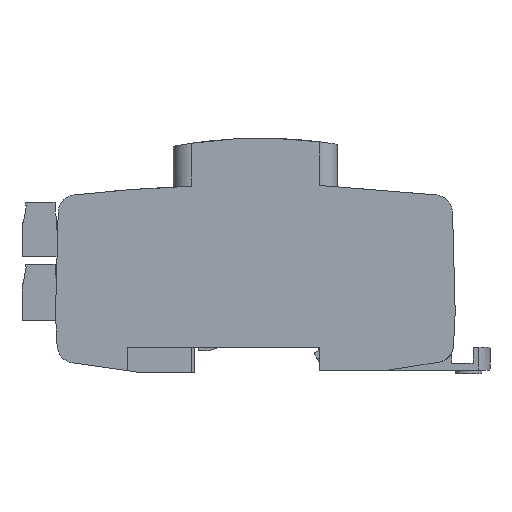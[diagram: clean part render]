
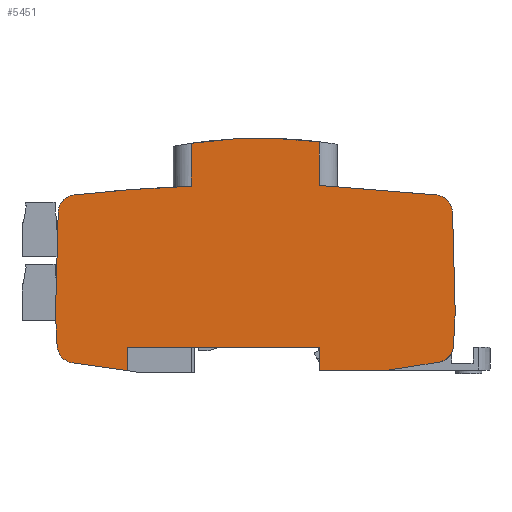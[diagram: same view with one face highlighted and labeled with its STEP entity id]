
A CAD part, left-side view. The second image highlights one B-rep face of the part: STEP entity #5451.
In plain terms, the highlighted planar face has unit normal (-1, 0, 0).
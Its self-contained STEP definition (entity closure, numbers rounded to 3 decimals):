
#30=DIRECTION('',(0.,0.,1.));
#31=VECTOR('',#30,6.453);
#32=CARTESIAN_POINT('',(0.,99.93,0.497));
#33=LINE('',#32,#31);
#34=DIRECTION('',(0.,0.99,0.14));
#35=VECTOR('',#34,15.328);
#36=CARTESIAN_POINT('',(0.,99.93,0.497));
#37=LINE('',#36,#35);
#38=CARTESIAN_POINT('',(0.,114.215,7.57));
#39=DIRECTION('',(1.,0.,0.));
#40=DIRECTION('',(0.,0.178,-0.984));
#41=AXIS2_PLACEMENT_3D('',#38,#39,#40);
#43=DIRECTION('',(0.,0.053,0.999));
#44=VECTOR('',#43,8.569);
#45=CARTESIAN_POINT('',(0.,119.206,7.279));
#46=LINE('',#45,#44);
#47=DIRECTION('',(0.,-0.026,1.));
#48=VECTOR('',#47,28.364);
#49=CARTESIAN_POINT('',(0.,119.656,15.836));
#50=LINE('',#49,#48);
#51=CARTESIAN_POINT('',(0.,114.061,44.063));
#52=DIRECTION('',(1.,0.,0.));
#53=DIRECTION('',(0.,1.,0.026));
#54=AXIS2_PLACEMENT_3D('',#51,#52,#53);
#56=DIRECTION('',(0.,0.,-1.));
#57=VECTOR('',#56,11.807);
#58=CARTESIAN_POINT('',(0.,82.22,63.112));
#59=LINE('',#58,#57);
#60=CARTESIAN_POINT('',(0.,63.11,-65.66));
#61=DIRECTION('',(1.,0.,0.));
#62=DIRECTION('',(0.,0.147,0.989));
#63=AXIS2_PLACEMENT_3D('',#60,#61,#62);
#65=DIRECTION('',(0.,0.,1.));
#66=VECTOR('',#65,12.018);
#67=CARTESIAN_POINT('',(0.,47.,51.503));
#68=LINE('',#67,#66);
#69=CARTESIAN_POINT('',(0.,15.29,43.94));
#70=DIRECTION('',(1.,0.,0.));
#71=DIRECTION('',(0.,-0.127,0.992));
#72=AXIS2_PLACEMENT_3D('',#69,#70,#71);
#74=DIRECTION('',(0.,-0.026,-1.));
#75=VECTOR('',#74,27.686);
#76=CARTESIAN_POINT('',(0.,10.302,44.071));
#77=LINE('',#76,#75);
#78=DIRECTION('',(0.,0.052,-0.999));
#79=VECTOR('',#78,8.926);
#80=CARTESIAN_POINT('',(0.,9.577,16.394));
#81=LINE('',#80,#79);
#82=CARTESIAN_POINT('',(0.,15.037,7.742));
#83=DIRECTION('',(-1.,0.,0.));
#84=DIRECTION('',(0.,-0.155,-0.988));
#85=AXIS2_PLACEMENT_3D('',#82,#83,#84);
#87=DIRECTION('',(0.,0.988,-0.155));
#88=VECTOR('',#87,14.43);
#89=CARTESIAN_POINT('',(0.,14.264,2.802));
#90=LINE('',#89,#88);
#91=DIRECTION('',(0.,1.,0.));
#92=VECTOR('',#91,18.39);
#93=CARTESIAN_POINT('',(0.,28.52,0.57));
#94=LINE('',#93,#92);
#95=DIRECTION('',(0.,0.,1.));
#96=VECTOR('',#95,6.38);
#97=CARTESIAN_POINT('',(0.,46.91,0.57));
#98=LINE('',#97,#96);
#147=DIRECTION('',(0.,-1.,0.));
#148=VECTOR('',#147,53.02);
#149=CARTESIAN_POINT('',(0.,99.93,6.95));
#150=LINE('',#149,#148);
#602=DIRECTION('',(0.,0.997,0.081));
#603=VECTOR('',#602,32.449);
#604=CARTESIAN_POINT('',(0.,14.657,48.89));
#605=LINE('',#604,#603);
#1854=CARTESIAN_POINT('',(0.,82.22,51.305));
#1855=CARTESIAN_POINT('',(0.,83.887,51.246));
#1856=CARTESIAN_POINT('',(0.,87.95,51.069));
#1857=CARTESIAN_POINT('',(0.,95.362,50.63));
#1858=CARTESIAN_POINT('',(0.,104.46,49.969));
#1859=CARTESIAN_POINT('',(0.,111.139,49.192));
#1860=CARTESIAN_POINT('',(0.,114.49,48.894));
#4376=CARTESIAN_POINT('',(0.,10.302,44.071));
#4377=CARTESIAN_POINT('',(0.,9.577,16.394));
#4378=VERTEX_POINT('',#4376);
#4379=VERTEX_POINT('',#4377);
#4380=CARTESIAN_POINT('',(0.,119.656,15.836));
#4381=CARTESIAN_POINT('',(0.,118.909,44.191));
#4382=VERTEX_POINT('',#4380);
#4383=VERTEX_POINT('',#4381);
#4392=CARTESIAN_POINT('',(0.,82.22,63.112));
#4393=CARTESIAN_POINT('',(0.,47.,63.522));
#4394=VERTEX_POINT('',#4392);
#4395=VERTEX_POINT('',#4393);
#4402=VERTEX_POINT('',#1854);
#4403=VERTEX_POINT('',#1860);
#4404=CARTESIAN_POINT('',(0.,10.044,7.481));
#4405=VERTEX_POINT('',#4404);
#4408=CARTESIAN_POINT('',(0.,14.657,48.89));
#4409=VERTEX_POINT('',#4408);
#4410=CARTESIAN_POINT('',(0.,115.107,2.65));
#4411=CARTESIAN_POINT('',(0.,119.206,7.279));
#4412=VERTEX_POINT('',#4410);
#4413=VERTEX_POINT('',#4411);
#4436=CARTESIAN_POINT('',(0.,47.,51.503));
#4437=VERTEX_POINT('',#4436);
#4438=CARTESIAN_POINT('',(0.,14.264,
2.802));
#4439=VERTEX_POINT('',#4438);
#4442=CARTESIAN_POINT('',(0.,28.52,0.57));
#4443=VERTEX_POINT('',#4442);
#5006=CARTESIAN_POINT('',(0.,46.91,0.57));
#5007=VERTEX_POINT('',#5006);
#5008=CARTESIAN_POINT('',(0.,46.91,6.95));
#5009=VERTEX_POINT('',#5008);
#5164=CARTESIAN_POINT('',(0.,99.93,0.497));
#5165=CARTESIAN_POINT('',(0.,99.93,6.95));
#5166=VERTEX_POINT('',#5164);
#5167=VERTEX_POINT('',#5165);
#5406=CARTESIAN_POINT('',(0.,0.,0.));
#5407=DIRECTION('',(1.,0.,0.));
#5408=DIRECTION('',(0.,0.,-1.));
#5409=AXIS2_PLACEMENT_3D('',#5406,#5407,#5408);
#5410=PLANE('',#5409);
#5412=ORIENTED_EDGE('',*,*,#5411,.F.);
#5414=ORIENTED_EDGE('',*,*,#5413,.F.);
#5416=ORIENTED_EDGE('',*,*,#5415,.T.);
#5418=ORIENTED_EDGE('',*,*,#5417,.T.);
#5420=ORIENTED_EDGE('',*,*,#5419,.T.);
#5422=ORIENTED_EDGE('',*,*,#5421,.T.);
#5424=ORIENTED_EDGE('',*,*,#5423,.T.);
#5426=ORIENTED_EDGE('',*,*,#5425,.F.);
#5428=ORIENTED_EDGE('',*,*,#5427,.F.);
#5430=ORIENTED_EDGE('',*,*,#5429,.T.);
#5432=ORIENTED_EDGE('',*,*,#5431,.F.);
#5434=ORIENTED_EDGE('',*,*,#5433,.F.);
#5436=ORIENTED_EDGE('',*,*,#5435,.T.);
#5438=ORIENTED_EDGE('',*,*,#5437,.T.);
#5440=ORIENTED_EDGE('',*,*,#5439,.T.);
#5442=ORIENTED_EDGE('',*,*,#5441,.F.);
#5444=ORIENTED_EDGE('',*,*,#5443,.T.);
#5446=ORIENTED_EDGE('',*,*,#5445,.T.);
#5448=ORIENTED_EDGE('',*,*,#5447,.T.);
#5449=EDGE_LOOP('',(#5412,#5414,#5416,#5418,#5420,#5422,#5424,#5426,#5428,#5430,
#5432,#5434,#5436,#5438,#5440,#5442,#5444,#5446,#5448));
#5450=FACE_OUTER_BOUND('',#5449,.F.);
#42=CIRCLE('',#41,5.);
#55=CIRCLE('',#54,4.85);
#64=CIRCLE('',#63,130.182);
#73=CIRCLE('',#72,4.99);
#86=CIRCLE('',#85,5.);
#1861=B_SPLINE_CURVE_WITH_KNOTS('',3,(#1854,#1855,#1856,#1857,#1858,#1859,
#1860),.UNSPECIFIED.,.F.,.F.,(4,1,1,1,4),(0.,0.155,
0.377,0.688,1.),.UNSPECIFIED.);
#5411=EDGE_CURVE('',#5167,#5009,#150,.T.);
#5413=EDGE_CURVE('',#5166,#5167,#33,.T.);
#5415=EDGE_CURVE('',#5166,#4412,#37,.T.);
#5417=EDGE_CURVE('',#4412,#4413,#42,.T.);
#5419=EDGE_CURVE('',#4413,#4382,#46,.T.);
#5421=EDGE_CURVE('',#4382,#4383,#50,.T.);
#5423=EDGE_CURVE('',#4383,#4403,#55,.T.);
#5425=EDGE_CURVE('',#4402,#4403,#1861,.T.);
#5427=EDGE_CURVE('',#4394,#4402,#59,.T.);
#5429=EDGE_CURVE('',#4394,#4395,#64,.T.);
#5431=EDGE_CURVE('',#4437,#4395,#68,.T.);
#5433=EDGE_CURVE('',#4409,#4437,#605,.T.);
#5435=EDGE_CURVE('',#4409,#4378,#73,.T.);
#5437=EDGE_CURVE('',#4378,#4379,#77,.T.);
#5439=EDGE_CURVE('',#4379,#4405,#81,.T.);
#5441=EDGE_CURVE('',#4439,#4405,#86,.T.);
#5443=EDGE_CURVE('',#4439,#4443,#90,.T.);
#5445=EDGE_CURVE('',#4443,#5007,#94,.T.);
#5447=EDGE_CURVE('',#5007,#5009,#98,.T.);
#5451=ADVANCED_FACE('',(#5450),#5410,.F.);
